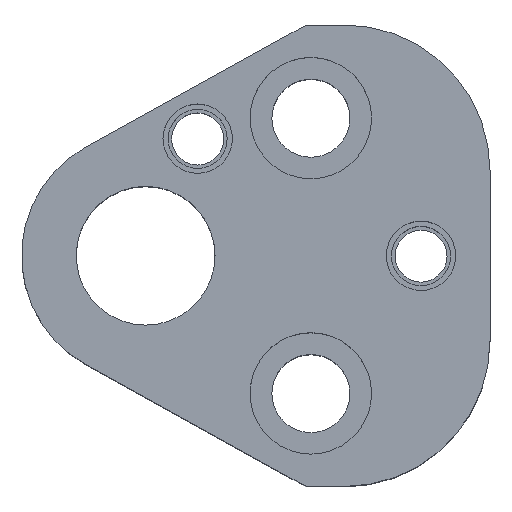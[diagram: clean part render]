
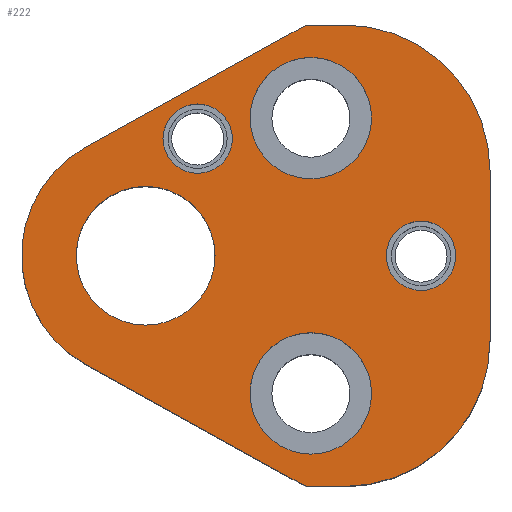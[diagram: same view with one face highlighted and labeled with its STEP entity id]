
A CAD part, top view. The second image highlights one B-rep face of the part: STEP entity #222.
In plain terms, the highlighted planar face has unit normal (0, 0, 1).
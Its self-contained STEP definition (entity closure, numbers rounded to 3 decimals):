
#101=FACE_BOUND('',#311,.T.);
#102=FACE_BOUND('',#312,.T.);
#103=FACE_BOUND('',#313,.T.);
#104=FACE_BOUND('',#314,.T.);
#105=FACE_BOUND('',#315,.T.);
#106=FACE_BOUND('',#316,.T.);
#150=CIRCLE('',#788,16.8);
#152=CIRCLE('',#792,16.8);
#155=CIRCLE('',#798,14.3);
#164=CIRCLE('',#812,7.);
#166=CIRCLE('',#815,7.);
#168=CIRCLE('',#819,7.);
#170=CIRCLE('',#822,7.);
#172=CIRCLE('',#826,4.);
#173=CIRCLE('',#827,4.);
#174=CIRCLE('',#828,4.);
#175=CIRCLE('',#829,4.);
#176=CIRCLE('',#830,8.);
#177=CIRCLE('',#831,8.);
#222=ADVANCED_FACE('',(#101,#102,#103,#104,#105,#106),#252,.T.);
#252=PLANE('',#832);
#311=EDGE_LOOP('',(#421,#422,#423,#424,#425,#426,#427,#428));
#312=EDGE_LOOP('',(#429,#430));
#313=EDGE_LOOP('',(#431,#432));
#314=EDGE_LOOP('',(#433,#434));
#315=EDGE_LOOP('',(#435,#436));
#316=EDGE_LOOP('',(#437,#438));
#421=ORIENTED_EDGE('',*,*,#606,.T.);
#422=ORIENTED_EDGE('',*,*,#610,.T.);
#423=ORIENTED_EDGE('',*,*,#613,.T.);
#424=ORIENTED_EDGE('',*,*,#616,.T.);
#425=ORIENTED_EDGE('',*,*,#619,.T.);
#426=ORIENTED_EDGE('',*,*,#622,.T.);
#427=ORIENTED_EDGE('',*,*,#625,.T.);
#428=ORIENTED_EDGE('',*,*,#628,.T.);
#429=ORIENTED_EDGE('',*,*,#653,.F.);
#430=ORIENTED_EDGE('',*,*,#654,.F.);
#431=ORIENTED_EDGE('',*,*,#655,.F.);
#432=ORIENTED_EDGE('',*,*,#656,.F.);
#433=ORIENTED_EDGE('',*,*,#651,.F.);
#434=ORIENTED_EDGE('',*,*,#647,.F.);
#435=ORIENTED_EDGE('',*,*,#645,.F.);
#436=ORIENTED_EDGE('',*,*,#641,.F.);
#437=ORIENTED_EDGE('',*,*,#657,.T.);
#438=ORIENTED_EDGE('',*,*,#658,.T.);
#542=VERTEX_POINT('',#1118);
#543=VERTEX_POINT('',#1120);
#546=VERTEX_POINT('',#1127);
#548=VERTEX_POINT('',#1133);
#550=VERTEX_POINT('',#1139);
#552=VERTEX_POINT('',#1145);
#554=VERTEX_POINT('',#1151);
#556=VERTEX_POINT('',#1157);
#565=VERTEX_POINT('',#1189);
#566=VERTEX_POINT('',#1190);
#569=VERTEX_POINT('',#1202);
#570=VERTEX_POINT('',#1203);
#573=VERTEX_POINT('',#1215);
#574=VERTEX_POINT('',#1216);
#575=VERTEX_POINT('',#1219);
#576=VERTEX_POINT('',#1220);
#577=VERTEX_POINT('',#1223);
#578=VERTEX_POINT('',#1224);
#606=EDGE_CURVE('',#543,#542,#702,.T.);
#610=EDGE_CURVE('',#542,#546,#706,.T.);
#613=EDGE_CURVE('',#546,#548,#150,.T.);
#616=EDGE_CURVE('',#548,#550,#710,.T.);
#619=EDGE_CURVE('',#550,#552,#152,.T.);
#622=EDGE_CURVE('',#552,#554,#714,.T.);
#625=EDGE_CURVE('',#554,#556,#717,.T.);
#628=EDGE_CURVE('',#556,#543,#155,.T.);
#641=EDGE_CURVE('',#565,#566,#164,.T.);
#645=EDGE_CURVE('',#566,#565,#166,.T.);
#647=EDGE_CURVE('',#569,#570,#168,.T.);
#651=EDGE_CURVE('',#570,#569,#170,.T.);
#653=EDGE_CURVE('',#573,#574,#172,.T.);
#654=EDGE_CURVE('',#574,#573,#173,.T.);
#655=EDGE_CURVE('',#575,#576,#174,.T.);
#656=EDGE_CURVE('',#576,#575,#175,.T.);
#657=EDGE_CURVE('',#577,#578,#176,.T.);
#658=EDGE_CURVE('',#578,#577,#177,.T.);
#702=LINE('',#1119,#744);
#706=LINE('',#1128,#748);
#710=LINE('',#1140,#752);
#714=LINE('',#1152,#756);
#717=LINE('',#1158,#759);
#744=VECTOR('',#884,1.);
#748=VECTOR('',#890,1.);
#752=VECTOR('',#902,1.);
#756=VECTOR('',#914,1.);
#759=VECTOR('',#919,1.);
#788=AXIS2_PLACEMENT_3D('',#1134,#895,#896);
#792=AXIS2_PLACEMENT_3D('',#1146,#907,#908);
#798=AXIS2_PLACEMENT_3D('',#1162,#925,#926);
#812=AXIS2_PLACEMENT_3D('',#1188,#957,#958);
#815=AXIS2_PLACEMENT_3D('',#1197,#965,#966);
#819=AXIS2_PLACEMENT_3D('',#1201,#973,#974);
#822=AXIS2_PLACEMENT_3D('',#1210,#981,#982);
#826=AXIS2_PLACEMENT_3D('',#1214,#989,#990);
#827=AXIS2_PLACEMENT_3D('',#1217,#991,#992);
#828=AXIS2_PLACEMENT_3D('',#1218,#993,#994);
#829=AXIS2_PLACEMENT_3D('',#1221,#995,#996);
#830=AXIS2_PLACEMENT_3D('',#1222,#997,#998);
#831=AXIS2_PLACEMENT_3D('',#1225,#999,#1000);
#832=AXIS2_PLACEMENT_3D('',#1226,#1001,#1002);
#884=DIRECTION('',(0.875,-0.485,0.));
#890=DIRECTION('',(1.,0.,0.));
#895=DIRECTION('',(0.,0.,1.));
#896=DIRECTION('',(-0.707,0.707,0.));
#902=DIRECTION('',(0.,1.,0.));
#907=DIRECTION('',(0.,0.,1.));
#908=DIRECTION('',(-0.707,-0.707,0.));
#914=DIRECTION('',(-1.,0.,0.));
#919=DIRECTION('',(-0.875,-0.485,0.));
#925=DIRECTION('',(0.,0.,1.));
#926=DIRECTION('',(1.,0.,0.));
#957=DIRECTION('',(0.,0.,1.));
#958=DIRECTION('',(-1.,0.,0.));
#965=DIRECTION('',(0.,0.,1.));
#966=DIRECTION('',(1.,0.,0.));
#973=DIRECTION('',(0.,0.,1.));
#974=DIRECTION('',(-1.,0.,0.));
#981=DIRECTION('',(0.,0.,1.));
#982=DIRECTION('',(1.,0.,0.));
#989=DIRECTION('',(0.,0.,1.));
#990=DIRECTION('',(1.,0.,0.));
#991=DIRECTION('',(0.,0.,1.));
#992=DIRECTION('',(-1.,0.,0.));
#993=DIRECTION('',(0.,0.,1.));
#994=DIRECTION('',(1.,0.,0.));
#995=DIRECTION('',(0.,0.,1.));
#996=DIRECTION('',(-1.,0.,0.));
#997=DIRECTION('',(0.,0.,-1.));
#998=DIRECTION('',(-1.,0.,0.));
#999=DIRECTION('',(0.,0.,-1.));
#1000=DIRECTION('',(1.,0.,0.));
#1001=DIRECTION('',(0.,0.,1.));
#1002=DIRECTION('',(-0.875,0.485,0.));
#1118=CARTESIAN_POINT('',(18.492,-26.6,32.));
#1119=CARTESIAN_POINT('',(18.492,-26.6,32.));
#1120=CARTESIAN_POINT('',(-6.933,-12.507,32.));
#1127=CARTESIAN_POINT('',(22.9,-26.6,32.));
#1128=CARTESIAN_POINT('',(18.492,-26.6,32.));
#1133=CARTESIAN_POINT('',(39.7,-9.8,32.));
#1134=CARTESIAN_POINT('',(22.9,-9.8,32.));
#1139=CARTESIAN_POINT('',(39.7,9.8,32.));
#1140=CARTESIAN_POINT('',(39.7,9.8,32.));
#1145=CARTESIAN_POINT('',(22.9,26.6,32.));
#1146=CARTESIAN_POINT('',(22.9,9.8,32.));
#1151=CARTESIAN_POINT('',(18.492,26.6,32.));
#1152=CARTESIAN_POINT('',(18.492,26.6,32.));
#1157=CARTESIAN_POINT('',(-6.933,12.507,32.));
#1158=CARTESIAN_POINT('',(18.492,26.6,32.));
#1162=CARTESIAN_POINT('',(0.,0.,32.));
#1188=CARTESIAN_POINT('',(19.05,-15.87,32.));
#1189=CARTESIAN_POINT('',(19.05,-22.87,32.));
#1190=CARTESIAN_POINT('',(19.05,-8.87,32.));
#1197=CARTESIAN_POINT('',(19.05,-15.87,32.));
#1201=CARTESIAN_POINT('',(19.05,15.87,32.));
#1202=CARTESIAN_POINT('',(19.05,8.87,32.));
#1203=CARTESIAN_POINT('',(19.05,22.87,32.));
#1210=CARTESIAN_POINT('',(19.05,15.87,32.));
#1214=CARTESIAN_POINT('',(31.75,0.,32.));
#1215=CARTESIAN_POINT('',(31.75,4.,32.));
#1216=CARTESIAN_POINT('',(31.75,-4.,32.));
#1217=CARTESIAN_POINT('',(31.75,0.,32.));
#1218=CARTESIAN_POINT('',(6.,13.5,32.));
#1219=CARTESIAN_POINT('',(6.,17.5,32.));
#1220=CARTESIAN_POINT('',(6.,9.5,32.));
#1221=CARTESIAN_POINT('',(6.,13.5,32.));
#1222=CARTESIAN_POINT('',(0.,0.,32.));
#1223=CARTESIAN_POINT('',(0.,8.,32.));
#1224=CARTESIAN_POINT('',(0.,-8.,32.));
#1225=CARTESIAN_POINT('',(0.,0.,32.));
#1226=CARTESIAN_POINT('',(-6.933,-12.507,32.));
